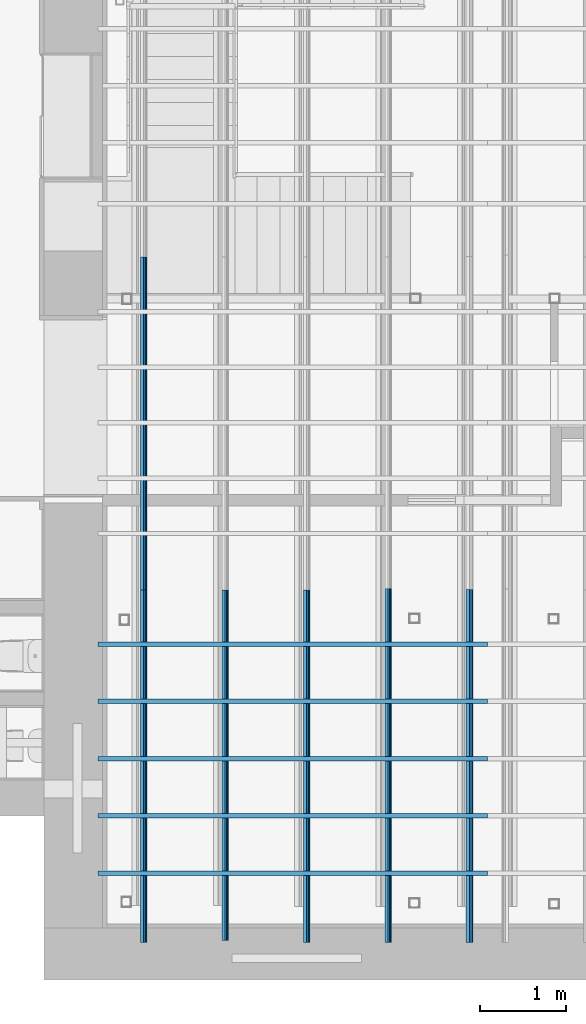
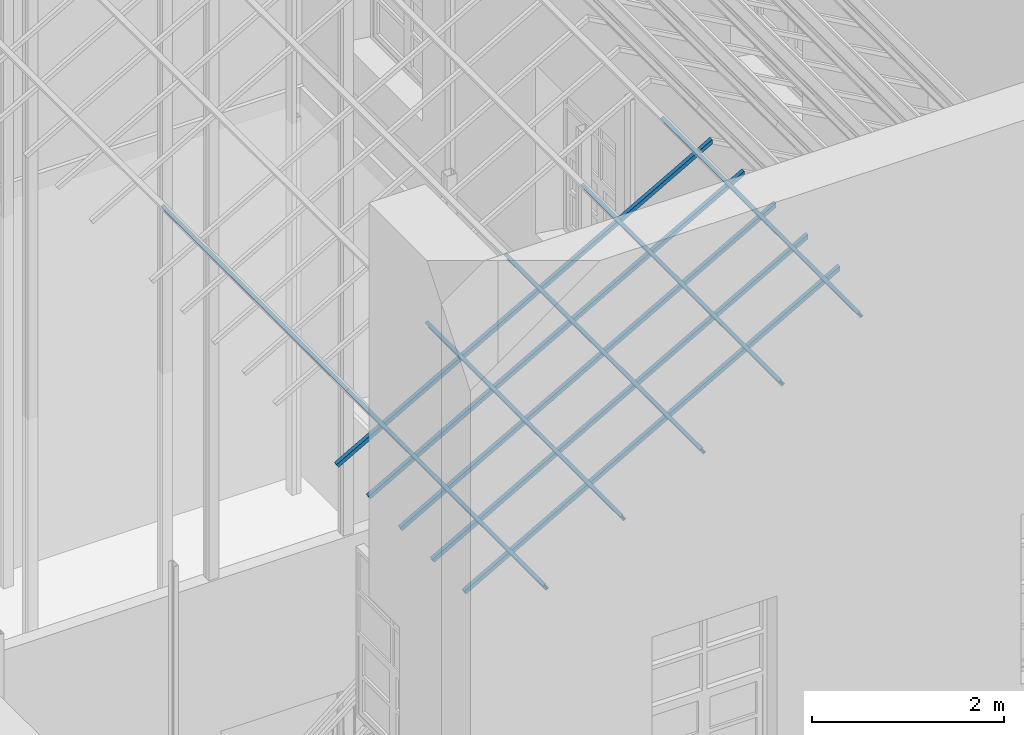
# One storey, part 16 of 75: 11 beams.
"""IFC2X3 building model written with IfcOpenShell, lengths in metres."""

from ifc_helpers import new_model, entity, si_unit, converted_unit, derived_unit, direction, frame, frame_2d, origin, place, context, subcontext, project, spatial, polyline, circle_curve, parameter, trimmed, segment, composite_curve, rectangle, outline, extrude, clip, halfspace, material, type_object, element, save


model = new_model("IFC2X3")

# Units and contexts
model_context = context("Model", 3, precision=1e-05, world=origin(), true_north=direction((6.12303176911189e-17, 1.0)))
body_context = subcontext(model_context, "Body", "Model", "MODEL_VIEW")
ifc_project = project(units=[si_unit("LENGTHUNIT", "METRE"), si_unit("AREAUNIT", "SQUARE_METRE"), si_unit("VOLUMEUNIT", "CUBIC_METRE"), converted_unit("PLANEANGLEUNIT", "DEGREE", entity("IfcRatioMeasure", 0.0174532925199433), si_unit("PLANEANGLEUNIT", "RADIAN"), dimensions=[0, 0, 0, 0, 0, 0, 0]), si_unit("MASSUNIT", "GRAM", prefix="KILO"), derived_unit("MASSDENSITYUNIT", [(si_unit("MASSUNIT", "GRAM", prefix="KILO"), 1), (si_unit("LENGTHUNIT", "METRE"), -3)]), derived_unit("MOMENTOFINERTIAUNIT", [(si_unit("LENGTHUNIT", "METRE"), 4)]), si_unit("TIMEUNIT", "SECOND"), si_unit("FREQUENCYUNIT", "HERTZ"), si_unit("THERMODYNAMICTEMPERATUREUNIT", "DEGREE_CELSIUS"), derived_unit("THERMALTRANSMITTANCEUNIT", [(si_unit("MASSUNIT", "GRAM", prefix="KILO"), 1), (si_unit("THERMODYNAMICTEMPERATUREUNIT", "KELVIN"), -1), (si_unit("TIMEUNIT", "SECOND"), -3)]), derived_unit("VOLUMETRICFLOWRATEUNIT", [(si_unit("LENGTHUNIT", "METRE"), 3), (si_unit("TIMEUNIT", "SECOND"), -1)]), si_unit("ELECTRICCURRENTUNIT", "AMPERE"), si_unit("ELECTRICVOLTAGEUNIT", "VOLT"), si_unit("POWERUNIT", "WATT"), si_unit("FORCEUNIT", "NEWTON", prefix="KILO"), si_unit("ILLUMINANCEUNIT", "LUX"), si_unit("LUMINOUSFLUXUNIT", "LUMEN"), si_unit("LUMINOUSINTENSITYUNIT", "CANDELA"), derived_unit("USERDEFINED", [(si_unit("MASSUNIT", "GRAM", prefix="KILO"), -1), (si_unit("LENGTHUNIT", "METRE"), -2), (si_unit("TIMEUNIT", "SECOND"), 3), (si_unit("LUMINOUSFLUXUNIT", "LUMEN"), 1)]), derived_unit("LINEARVELOCITYUNIT", [(si_unit("LENGTHUNIT", "METRE"), 1), (si_unit("TIMEUNIT", "SECOND"), -1)]), si_unit("PRESSUREUNIT", "PASCAL"), derived_unit("USERDEFINED", [(si_unit("LENGTHUNIT", "METRE"), -2), (si_unit("MASSUNIT", "GRAM", prefix="KILO"), 1), (si_unit("TIMEUNIT", "SECOND"), -2)]), derived_unit("LINEARFORCEUNIT", [(si_unit("MASSUNIT", "GRAM", prefix="KILO"), 1), (si_unit("LENGTHUNIT", "METRE"), 1), (si_unit("TIMEUNIT", "SECOND"), -2), (si_unit("LENGTHUNIT", "METRE"), -1)]), derived_unit("PLANARFORCEUNIT", [(si_unit("MASSUNIT", "GRAM", prefix="KILO"), 1), (si_unit("LENGTHUNIT", "METRE"), 1), (si_unit("TIMEUNIT", "SECOND"), -2), (si_unit("LENGTHUNIT", "METRE"), -2)])], contexts=[model_context])

# Site, building, storey
site_placement = place(None, origin())
site = spatial("IfcSite", under=ifc_project, at=site_placement, Name="Superficie", CompositionType="ELEMENT")
building_placement = place(site_placement, origin())
building = spatial("IfcBuilding", under=site, at=building_placement, Name="Telegestiones", CompositionType="ELEMENT")
storey_placement = place(building_placement, origin())
storey = spatial("IfcBuildingStorey", under=building, at=storey_placement, Name="Nivel 0_NPT", CompositionType="ELEMENT", Elevation=0.0)

# Beams
ifc_material_1 = material(Name="Metal - Acero - 345 MPa")
beam_type_1 = type_object("IfcBeamType", Name="IPN - Secciones en I con alas cónicas:IPN 80", PredefinedType="NOTDEFINED")
beam_1_placement = place(storey_placement, frame((6.48635733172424, -1.87519277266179, 13.4782410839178), z_axis=(0.0, 0.0, 1.0), x_axis=(0.0, 1.0, 0.0)))
element("IfcBeam", 1, at=beam_1_placement, inside=storey, type_object=beam_type_1, material=ifc_material_1, Name="IPN - Secciones en I con alas cónicas:IPN 80", ObjectType="IPN - Secciones en I con alas cónicas:IPN 80", context=body_context, shape_type="SweptSolid", body=[
    extrude(outline(composite_curve([segment(polyline([(-0.0209999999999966, -0.0400000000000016), (0.0210000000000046, -0.0400000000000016)]), True, "CONTINUOUS"), segment(polyline([(0.0210000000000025, -0.0399999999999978), (0.0210000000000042, -0.0375704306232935)]), True, "CONTINUOUS"), segment(trimmed(circle_curve(frame_2d((0.0187000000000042, -0.0375704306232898), x_axis=(1.0, 0.0)), 0.00229999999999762), [parameter(0.0)], [parameter(82.0303896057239)], True, "PARAMETER"), True, "CONTINUOUS"), segment(polyline([(0.0190188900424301, -0.0352926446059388), (0.00530927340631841, -0.0333732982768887)]), True, "CONTINUOUS"), segment(trimmed(circle_curve(frame_2d((0.0058500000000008, -0.0295109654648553), x_axis=(-0.138647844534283, -0.990341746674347)), 0.00389999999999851), [parameter(277.969610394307)], [parameter(0.0)], True, "PARAMETER"), False, "CONTINUOUS"), segment(polyline([(0.00195000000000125, -0.0295109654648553), (0.0019499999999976, 0.02951096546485)]), True, "CONTINUOUS"), segment(trimmed(circle_curve(frame_2d((0.0058499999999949, 0.0295109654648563), x_axis=(-1.0, 0.0)), 0.00389999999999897), [parameter(277.969610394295)], [parameter(0.0)], True, "PARAMETER"), False, "CONTINUOUS"), segment(polyline([(0.00530927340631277, 0.0333732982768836), (0.0190188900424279, 0.0352926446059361)]), True, "CONTINUOUS"), segment(trimmed(circle_curve(frame_2d((0.0186999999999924, 0.0375704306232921), x_axis=(0.13864784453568, -0.990341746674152)), 0.00230000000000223), [parameter(0.0)], [parameter(82.0303896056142)], True, "PARAMETER"), True, "CONTINUOUS"), segment(polyline([(0.0209999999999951, 0.0375704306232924), (0.0209999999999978, 0.0399999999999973)]), True, "CONTINUOUS"), segment(polyline([(0.0209999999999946, 0.040000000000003), (-0.0210000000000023, 0.0399999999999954)]), True, "CONTINUOUS"), segment(polyline([(-0.0210000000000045, 0.0399999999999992), (-0.0210000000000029, 0.0375704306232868)]), True, "CONTINUOUS"), segment(trimmed(circle_curve(frame_2d((-0.0187000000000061, 0.0375704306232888), x_axis=(-1.0, 0.0)), 0.00229999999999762), [parameter(0.0)], [parameter(82.0303896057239)], True, "PARAMETER"), True, "CONTINUOUS"), segment(polyline([(-0.019018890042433, 0.0352926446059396), (-0.00530927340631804, 0.0333732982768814)]), True, "CONTINUOUS"), segment(trimmed(circle_curve(frame_2d((-0.00585000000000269, 0.0295109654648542), x_axis=(0.138647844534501, 0.990341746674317)), 0.00390000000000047), [parameter(277.969610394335)], [parameter(0.0)], True, "PARAMETER"), False, "CONTINUOUS"), segment(polyline([(-0.00195000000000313, 0.0295109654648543), (-0.00194999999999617, -0.0295109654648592)]), True, "CONTINUOUS"), segment(trimmed(circle_curve(frame_2d((-0.00584999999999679, -0.0295109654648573), x_axis=(1.0, 0.0)), 0.00389999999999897), [parameter(277.969610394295)], [parameter(0.0)], True, "PARAMETER"), False, "CONTINUOUS"), segment(polyline([(-0.00530927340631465, -0.0333732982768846), (-0.0190188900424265, -0.0352926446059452)]), True, "CONTINUOUS"), segment(trimmed(circle_curve(frame_2d((-0.0186999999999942, -0.0375704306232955), x_axis=(-0.138647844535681, 0.990341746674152)), 0.00230000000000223), [parameter(0.0)], [parameter(82.0303896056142)], True, "PARAMETER"), True, "CONTINUOUS"), segment(polyline([(-0.020999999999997, -0.0375704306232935), (-0.0209999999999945, -0.0400000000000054)]), True, "CONTINUOUS")], self_intersect=False)), frame((-0.0138500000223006, -0.0245925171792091, -0.0435339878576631), z_axis=(1.0, 0.0, 0.0), x_axis=(0.0, -0.870679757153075, 0.491850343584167)), (0.0, 0.0, 1.0), 3.8608500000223),
])
beam_2_placement = place(storey_placement, frame((10.2618424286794, -5.95939277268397, 15.6110271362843), z_axis=(0.0, 0.0, 1.0), x_axis=(0.0, 1.0, 0.0)))
element("IfcBeam", 2, at=beam_2_placement, inside=storey, type_object=beam_type_1, material=ifc_material_1, Name="IPN - Secciones en I con alas cónicas:IPN 80", ObjectType="IPN - Secciones en I con alas cónicas:IPN 80", context=body_context, shape_type="SweptSolid", body=[
    extrude(outline(composite_curve([segment(polyline([(-0.0209999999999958, -0.0400000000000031), (0.0210000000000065, -0.0400000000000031)]), True, "CONTINUOUS"), segment(polyline([(0.0210000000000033, -0.0399999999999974), (0.021000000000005, -0.0375704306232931)]), True, "CONTINUOUS"), segment(trimmed(circle_curve(frame_2d((0.0187000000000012, -0.0375704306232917), x_axis=(1.0, 0.0)), 0.00230000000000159), [parameter(0.0)], [parameter(82.0303896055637)], True, "PARAMETER"), True, "CONTINUOUS"), segment(polyline([(0.0190188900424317, -0.0352926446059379), (0.00530927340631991, -0.0333732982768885)]), True, "CONTINUOUS"), segment(trimmed(circle_curve(frame_2d((0.00585000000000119, -0.0295109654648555), x_axis=(-0.138647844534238, -0.990341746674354)), 0.0038999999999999), [parameter(277.969610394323)], [parameter(0.0)], True, "PARAMETER"), False, "CONTINUOUS"), segment(polyline([(0.00195000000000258, -0.0295109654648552), (0.00194999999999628, 0.0295109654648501)]), True, "CONTINUOUS"), segment(trimmed(circle_curve(frame_2d((0.00584999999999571, 0.0295109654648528), x_axis=(-1.0, 0.0)), 0.00390000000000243), [parameter(277.969610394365)], [parameter(0.0)], True, "PARAMETER"), False, "CONTINUOUS"), segment(polyline([(0.00530927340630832, 0.0333732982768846), (0.0190188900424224, 0.0352926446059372)]), True, "CONTINUOUS"), segment(trimmed(circle_curve(frame_2d((0.0186999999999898, 0.0375704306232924), x_axis=(0.138647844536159, -0.990341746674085)), 0.00230000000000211), [parameter(0.0)], [parameter(82.0303896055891)], True, "PARAMETER"), True, "CONTINUOUS"), segment(polyline([(0.0209999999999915, 0.0375704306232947), (0.0209999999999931, 0.0399999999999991)]), True, "CONTINUOUS"), segment(polyline([(0.0209999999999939, 0.040000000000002), (-0.0210000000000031, 0.0399999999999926)]), True, "CONTINUOUS"), segment(polyline([(-0.0210000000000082, 0.0399999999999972), (-0.0210000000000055, 0.0375704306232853)]), True, "CONTINUOUS"), segment(trimmed(circle_curve(frame_2d((-0.018700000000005, 0.0375704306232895), x_axis=(-1.0, 0.0)), 0.00230000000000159), [parameter(0.0)], [parameter(82.0303896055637)], True, "PARAMETER"), True, "CONTINUOUS"), segment(polyline([(-0.0190188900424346, 0.0352926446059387), (-0.00530927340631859, 0.0333732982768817)]), True, "CONTINUOUS"), segment(trimmed(circle_curve(frame_2d((-0.00585000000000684, 0.0295109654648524), x_axis=(0.138647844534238, 0.990341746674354)), 0.0038999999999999), [parameter(277.969610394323)], [parameter(0.0)], True, "PARAMETER"), False, "CONTINUOUS"), segment(polyline([(-0.00195000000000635, 0.0295109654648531), (-0.00194999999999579, -0.0295109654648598)]), True, "CONTINUOUS"), segment(trimmed(circle_curve(frame_2d((-0.00585000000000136, -0.029510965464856), x_axis=(1.0, 0.0)), 0.00390000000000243), [parameter(277.969610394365)], [parameter(0.0)], True, "PARAMETER"), False, "CONTINUOUS"), segment(polyline([(-0.00530927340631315, -0.0333732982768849), (-0.0190188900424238, -0.035292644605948)]), True, "CONTINUOUS"), segment(trimmed(circle_curve(frame_2d((-0.0186999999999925, -0.0375704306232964), x_axis=(-0.138647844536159, 0.990341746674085)), 0.00230000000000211), [parameter(0.0)], [parameter(82.0303896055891)], True, "PARAMETER"), True, "CONTINUOUS"), segment(polyline([(-0.0209999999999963, -0.037570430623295), (-0.0209999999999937, -0.0400000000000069)]), True, "CONTINUOUS")], self_intersect=False)), frame((-0.0138500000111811, -0.0245925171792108, -0.0435339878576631), z_axis=(1.0, 0.0, 0.0), x_axis=(0.0, -0.870679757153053, 0.491850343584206)), (0.0, 0.0, 1.0), 4.0938500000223),
])
beam_3_placement = place(storey_placement, frame((6.48635733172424, -5.95939277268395, 13.4782410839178), z_axis=(0.0, 0.0, 1.0), x_axis=(0.0, 1.0, 0.0)))
element("IfcBeam", 3, at=beam_3_placement, inside=storey, type_object=beam_type_1, material=ifc_material_1, Name="IPN - Secciones en I con alas cónicas:IPN 80", ObjectType="IPN - Secciones en I con alas cónicas:IPN 80", context=body_context, shape_type="SweptSolid", body=[
    extrude(outline(composite_curve([segment(polyline([(-0.0209999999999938, -0.0400000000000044), (0.0210000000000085, -0.0400000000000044)]), True, "CONTINUOUS"), segment(polyline([(0.0210000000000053, -0.0399999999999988), (0.021000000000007, -0.0375704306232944)]), True, "CONTINUOUS"), segment(trimmed(circle_curve(frame_2d((0.018700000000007, -0.0375704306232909), x_axis=(1.0, 0.0)), 0.00229999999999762), [parameter(0.0)], [parameter(82.0303896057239)], True, "PARAMETER"), True, "CONTINUOUS"), segment(polyline([(0.0190188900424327, -0.0352926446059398), (0.00530927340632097, -0.0333732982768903)]), True, "CONTINUOUS"), segment(trimmed(circle_curve(frame_2d((0.00585000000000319, -0.0295109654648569), x_axis=(-0.138647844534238, -0.990341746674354)), 0.00389999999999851), [parameter(277.969610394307)], [parameter(0.0)], True, "PARAMETER"), False, "CONTINUOUS"), segment(polyline([(0.00195000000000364, -0.0295109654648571), (0.00194999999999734, 0.0295109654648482)]), True, "CONTINUOUS"), segment(trimmed(circle_curve(frame_2d((0.00584999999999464, 0.0295109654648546), x_axis=(-1.0, 0.0)), 0.00389999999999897), [parameter(277.969610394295)], [parameter(0.0)], True, "PARAMETER"), False, "CONTINUOUS"), segment(polyline([(0.00530927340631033, 0.0333732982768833), (0.0190188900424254, 0.0352926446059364)]), True, "CONTINUOUS"), segment(trimmed(circle_curve(frame_2d((0.0186999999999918, 0.037570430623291), x_axis=(0.138647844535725, -0.990341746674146)), 0.00230000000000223), [parameter(0.0)], [parameter(82.0303896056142)], True, "PARAMETER"), True, "CONTINUOUS"), segment(polyline([(0.0209999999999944, 0.0375704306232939), (0.020999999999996, 0.0399999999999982)]), True, "CONTINUOUS"), segment(polyline([(0.020999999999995, 0.0400000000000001), (-0.021000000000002, 0.0399999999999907)]), True, "CONTINUOUS"), segment(polyline([(-0.0210000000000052, 0.0399999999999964), (-0.0210000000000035, 0.0375704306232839)]), True, "CONTINUOUS"), segment(trimmed(circle_curve(frame_2d((-0.0187000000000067, 0.0375704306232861), x_axis=(-1.0, 0.0)), 0.00229999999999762), [parameter(0.0)], [parameter(82.0303896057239)], True, "PARAMETER"), True, "CONTINUOUS"), segment(polyline([(-0.0190188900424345, 0.0352926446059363), (-0.00530927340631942, 0.0333732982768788)]), True, "CONTINUOUS"), segment(trimmed(circle_curve(frame_2d((-0.00585000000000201, 0.0295109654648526), x_axis=(0.138647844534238, 0.990341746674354)), 0.00389999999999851), [parameter(277.969610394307)], [parameter(0.0)], True, "PARAMETER"), False, "CONTINUOUS"), segment(polyline([(-0.00195000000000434, 0.0295109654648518), (-0.00194999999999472, -0.0295109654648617)]), True, "CONTINUOUS"), segment(trimmed(circle_curve(frame_2d((-0.0058499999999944, -0.0295109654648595), x_axis=(1.0, 0.0)), 0.00389999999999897), [parameter(277.969610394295)], [parameter(0.0)], True, "PARAMETER"), False, "CONTINUOUS"), segment(polyline([(-0.00530927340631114, -0.0333732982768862), (-0.0190188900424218, -0.0352926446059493)]), True, "CONTINUOUS"), segment(trimmed(circle_curve(frame_2d((-0.0186999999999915, -0.0375704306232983), x_axis=(-0.138647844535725, 0.990341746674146)), 0.00230000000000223), [parameter(0.0)], [parameter(82.0303896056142)], True, "PARAMETER"), True, "CONTINUOUS"), segment(polyline([(-0.0209999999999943, -0.0375704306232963), (-0.0209999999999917, -0.0400000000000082)]), True, "CONTINUOUS")], self_intersect=False)), frame((-0.0137500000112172, -0.0245925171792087, -0.0435339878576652), z_axis=(1.0, 0.0, 0.0), x_axis=(0.0, -0.870679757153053, 0.491850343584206)), (0.0, 0.0, 1.0), 4.0848500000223),
])
beam_4_placement = place(storey_placement, frame((9.31797115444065, -5.95939277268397, 15.0778306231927), z_axis=(0.0, 0.0, 1.0), x_axis=(0.0, 1.0, 0.0)))
element("IfcBeam", 4, at=beam_4_placement, inside=storey, type_object=beam_type_1, material=ifc_material_1, Name="IPN - Secciones en I con alas cónicas:IPN 80", ObjectType="IPN - Secciones en I con alas cónicas:IPN 80", context=body_context, shape_type="SweptSolid", body=[
    extrude(outline(composite_curve([segment(polyline([(-0.0209999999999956, -0.0400000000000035), (0.0210000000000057, -0.0400000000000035)]), True, "CONTINUOUS"), segment(polyline([(0.0210000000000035, -0.0399999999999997), (0.0210000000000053, -0.0375704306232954)]), True, "CONTINUOUS"), segment(trimmed(circle_curve(frame_2d((0.0187000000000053, -0.0375704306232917), x_axis=(1.0, 0.0)), 0.00229999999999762), [parameter(0.0)], [parameter(82.0303896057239)], True, "PARAMETER"), True, "CONTINUOUS"), segment(polyline([(0.0190188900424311, -0.0352926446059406), (0.00530927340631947, -0.0333732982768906)]), True, "CONTINUOUS"), segment(trimmed(circle_curve(frame_2d((0.00585000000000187, -0.0295109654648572), x_axis=(-0.138647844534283, -0.990341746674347)), 0.00389999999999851), [parameter(277.969610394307)], [parameter(0.0)], True, "PARAMETER"), False, "CONTINUOUS"), segment(polyline([(0.00195000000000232, -0.0295109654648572), (0.00194999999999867, 0.0295109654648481)]), True, "CONTINUOUS"), segment(trimmed(circle_curve(frame_2d((0.00584999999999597, 0.0295109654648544), x_axis=(-1.0, 0.0)), 0.00389999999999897), [parameter(277.969610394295)], [parameter(0.0)], True, "PARAMETER"), False, "CONTINUOUS"), segment(polyline([(0.00530927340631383, 0.0333732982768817), (0.019018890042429, 0.0352926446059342)]), True, "CONTINUOUS"), segment(trimmed(circle_curve(frame_2d((0.0186999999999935, 0.0375704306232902), x_axis=(0.138647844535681, -0.990341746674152)), 0.00230000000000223), [parameter(0.0)], [parameter(82.0303896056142)], True, "PARAMETER"), True, "CONTINUOUS"), segment(polyline([(0.0209999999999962, 0.0375704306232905), (0.020999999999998, 0.0399999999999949)]), True, "CONTINUOUS"), segment(polyline([(0.0209999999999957, 0.0400000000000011), (-0.0210000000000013, 0.0399999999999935)]), True, "CONTINUOUS"), segment(polyline([(-0.0210000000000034, 0.0399999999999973), (-0.0210000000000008, 0.037570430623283)]), True, "CONTINUOUS"), segment(trimmed(circle_curve(frame_2d((-0.018700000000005, 0.0375704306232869), x_axis=(-1.0, 0.0)), 0.00229999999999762), [parameter(0.0)], [parameter(82.0303896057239)], True, "PARAMETER"), True, "CONTINUOUS"), segment(polyline([(-0.019018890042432, 0.0352926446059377), (-0.00530927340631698, 0.0333732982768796)]), True, "CONTINUOUS"), segment(trimmed(circle_curve(frame_2d((-0.00585000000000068, 0.0295109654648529), x_axis=(0.138647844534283, 0.990341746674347)), 0.00389999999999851), [parameter(277.969610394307)], [parameter(0.0)], True, "PARAMETER"), False, "CONTINUOUS"), segment(polyline([(-0.00195000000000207, 0.0295109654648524), (-0.0019499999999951, -0.029510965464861)]), True, "CONTINUOUS"), segment(trimmed(circle_curve(frame_2d((-0.00584999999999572, -0.0295109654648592), x_axis=(1.0, 0.0)), 0.00389999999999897), [parameter(277.969610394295)], [parameter(0.0)], True, "PARAMETER"), False, "CONTINUOUS"), segment(polyline([(-0.00530927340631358, -0.0333732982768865), (-0.0190188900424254, -0.0352926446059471)]), True, "CONTINUOUS"), segment(trimmed(circle_curve(frame_2d((-0.0186999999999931, -0.0375704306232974), x_axis=(-0.13864784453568, 0.990341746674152)), 0.00230000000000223), [parameter(0.0)], [parameter(82.0303896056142)], True, "PARAMETER"), True, "CONTINUOUS"), segment(polyline([(-0.020999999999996, -0.0375704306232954), (-0.0209999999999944, -0.0400000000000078)]), True, "CONTINUOUS")], self_intersect=False)), frame((-0.0138500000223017, -0.0245925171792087, -0.0435339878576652), z_axis=(1.0, 0.0, 0.0), x_axis=(0.0, -0.870679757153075, 0.491850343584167)), (0.0, 0.0, 1.0), 4.11805000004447),
])
beam_5_placement = place(storey_placement, frame((8.37409988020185, -5.95939277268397, 14.5446341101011), z_axis=(0.0, 0.0, 1.0), x_axis=(0.0, 1.0, 0.0)))
element("IfcBeam", 5, at=beam_5_placement, inside=storey, type_object=beam_type_1, material=ifc_material_1, Name="IPN - Secciones en I con alas cónicas:IPN 80", ObjectType="IPN - Secciones en I con alas cónicas:IPN 80", context=body_context, shape_type="SweptSolid", body=[
    extrude(outline(composite_curve([segment(polyline([(-0.0209999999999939, -0.040000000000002), (0.0210000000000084, -0.040000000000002)]), True, "CONTINUOUS"), segment(polyline([(0.0210000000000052, -0.0399999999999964), (0.0210000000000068, -0.037570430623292)]), True, "CONTINUOUS"), segment(trimmed(circle_curve(frame_2d((0.0187000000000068, -0.0375704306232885), x_axis=(1.0, 0.0)), 0.00229999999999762), [parameter(0.0)], [parameter(82.0303896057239)], True, "PARAMETER"), True, "CONTINUOUS"), segment(polyline([(0.0190188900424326, -0.0352926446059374), (0.00530927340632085, -0.0333732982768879)]), True, "CONTINUOUS"), segment(trimmed(circle_curve(frame_2d((0.00585000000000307, -0.0295109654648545), x_axis=(-0.138647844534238, -0.990341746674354)), 0.00389999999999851), [parameter(277.969610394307)], [parameter(0.0)], True, "PARAMETER"), False, "CONTINUOUS"), segment(polyline([(0.00195000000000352, -0.0295109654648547), (0.00194999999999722, 0.0295109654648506)]), True, "CONTINUOUS"), segment(trimmed(circle_curve(frame_2d((0.00584999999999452, 0.0295109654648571), x_axis=(-1.0, 0.0)), 0.00389999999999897), [parameter(277.969610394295)], [parameter(0.0)], True, "PARAMETER"), False, "CONTINUOUS"), segment(polyline([(0.00530927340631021, 0.0333732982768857), (0.0190188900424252, 0.0352926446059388)]), True, "CONTINUOUS"), segment(trimmed(circle_curve(frame_2d((0.0186999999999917, 0.0375704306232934), x_axis=(0.138647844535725, -0.990341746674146)), 0.00230000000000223), [parameter(0.0)], [parameter(82.0303896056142)], True, "PARAMETER"), True, "CONTINUOUS"), segment(polyline([(0.0209999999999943, 0.0375704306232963), (0.0209999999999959, 0.0400000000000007)]), True, "CONTINUOUS"), segment(polyline([(0.0209999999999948, 0.0400000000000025), (-0.0210000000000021, 0.0399999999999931)]), True, "CONTINUOUS"), segment(polyline([(-0.0210000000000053, 0.0399999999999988), (-0.0210000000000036, 0.0375704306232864)]), True, "CONTINUOUS"), segment(trimmed(circle_curve(frame_2d((-0.0187000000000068, 0.0375704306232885), x_axis=(-1.0, 0.0)), 0.00229999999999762), [parameter(0.0)], [parameter(82.0303896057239)], True, "PARAMETER"), True, "CONTINUOUS"), segment(polyline([(-0.0190188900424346, 0.0352926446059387), (-0.00530927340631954, 0.0333732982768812)]), True, "CONTINUOUS"), segment(trimmed(circle_curve(frame_2d((-0.00585000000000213, 0.029510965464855), x_axis=(0.138647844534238, 0.990341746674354)), 0.00389999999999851), [parameter(277.969610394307)], [parameter(0.0)], True, "PARAMETER"), False, "CONTINUOUS"), segment(polyline([(-0.00195000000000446, 0.0295109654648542), (-0.00194999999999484, -0.0295109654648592)]), True, "CONTINUOUS"), segment(trimmed(circle_curve(frame_2d((-0.00584999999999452, -0.0295109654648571), x_axis=(1.0, 0.0)), 0.00389999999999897), [parameter(277.969610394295)], [parameter(0.0)], True, "PARAMETER"), False, "CONTINUOUS"), segment(polyline([(-0.00530927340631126, -0.0333732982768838), (-0.0190188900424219, -0.0352926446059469)]), True, "CONTINUOUS"), segment(trimmed(circle_curve(frame_2d((-0.0186999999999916, -0.0375704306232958), x_axis=(-0.138647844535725, 0.990341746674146)), 0.00230000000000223), [parameter(0.0)], [parameter(82.0303896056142)], True, "PARAMETER"), True, "CONTINUOUS"), segment(polyline([(-0.0209999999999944, -0.0375704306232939), (-0.0209999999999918, -0.0400000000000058)]), True, "CONTINUOUS")], self_intersect=False)), frame((-0.0137500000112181, -0.0245925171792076, -0.0435339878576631), z_axis=(1.0, 0.0, 0.0), x_axis=(0.0, -0.870679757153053, 0.491850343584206)), (0.0, 0.0, 1.0), 4.0848500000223),
])
beam_6_placement = place(storey_placement, frame((7.43022860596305, -5.9351927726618, 14.0114375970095), z_axis=(0.0, 0.0, 1.0), x_axis=(0.0, 1.0, 0.0)))
element("IfcBeam", 6, at=beam_6_placement, inside=storey, type_object=beam_type_1, material=ifc_material_1, Name="IPN - Secciones en I con alas cónicas:IPN 80", ObjectType="IPN - Secciones en I con alas cónicas:IPN 80", context=body_context, shape_type="SweptSolid", body=[
    extrude(outline(composite_curve([segment(polyline([(-0.0209999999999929, -0.0400000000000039), (0.0210000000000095, -0.0400000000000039)]), True, "CONTINUOUS"), segment(polyline([(0.0210000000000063, -0.0399999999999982), (0.0210000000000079, -0.0375704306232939)]), True, "CONTINUOUS"), segment(trimmed(circle_curve(frame_2d((0.0187000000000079, -0.0375704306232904), x_axis=(1.0, 0.0)), 0.00229999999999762), [parameter(0.0)], [parameter(82.0303896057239)], True, "PARAMETER"), True, "CONTINUOUS"), segment(polyline([(0.0190188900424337, -0.0352926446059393), (0.00530927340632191, -0.0333732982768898)]), True, "CONTINUOUS"), segment(trimmed(circle_curve(frame_2d((0.00585000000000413, -0.0295109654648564), x_axis=(-0.138647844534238, -0.990341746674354)), 0.00389999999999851), [parameter(277.969610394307)], [parameter(0.0)], True, "PARAMETER"), False, "CONTINUOUS"), segment(polyline([(0.00195000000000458, -0.0295109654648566), (0.00194999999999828, 0.0295109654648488)]), True, "CONTINUOUS"), segment(trimmed(circle_curve(frame_2d((0.00584999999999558, 0.0295109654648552), x_axis=(-1.0, 0.0)), 0.00389999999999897), [parameter(277.969610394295)], [parameter(0.0)], True, "PARAMETER"), False, "CONTINUOUS"), segment(polyline([(0.00530927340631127, 0.0333732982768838), (0.0190188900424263, 0.0352926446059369)]), True, "CONTINUOUS"), segment(trimmed(circle_curve(frame_2d((0.0186999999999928, 0.0375704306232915), x_axis=(0.138647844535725, -0.990341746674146)), 0.00230000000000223), [parameter(0.0)], [parameter(82.0303896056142)], True, "PARAMETER"), True, "CONTINUOUS"), segment(polyline([(0.0209999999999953, 0.0375704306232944), (0.020999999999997, 0.0399999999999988)]), True, "CONTINUOUS"), segment(polyline([(0.0209999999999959, 0.0400000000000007), (-0.0210000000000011, 0.0399999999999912)]), True, "CONTINUOUS"), segment(polyline([(-0.0210000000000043, 0.0399999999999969), (-0.0210000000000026, 0.0375704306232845)]), True, "CONTINUOUS"), segment(trimmed(circle_curve(frame_2d((-0.0187000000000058, 0.0375704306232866), x_axis=(-1.0, 0.0)), 0.00229999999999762), [parameter(0.0)], [parameter(82.0303896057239)], True, "PARAMETER"), True, "CONTINUOUS"), segment(polyline([(-0.0190188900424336, 0.0352926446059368), (-0.00530927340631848, 0.0333732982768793)]), True, "CONTINUOUS"), segment(trimmed(circle_curve(frame_2d((-0.00585000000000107, 0.0295109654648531), x_axis=(0.138647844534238, 0.990341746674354)), 0.00389999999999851), [parameter(277.969610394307)], [parameter(0.0)], True, "PARAMETER"), False, "CONTINUOUS"), segment(polyline([(-0.00195000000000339, 0.0295109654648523), (-0.00194999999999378, -0.0295109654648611)]), True, "CONTINUOUS"), segment(trimmed(circle_curve(frame_2d((-0.00584999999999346, -0.0295109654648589), x_axis=(1.0, 0.0)), 0.00389999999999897), [parameter(277.969610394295)], [parameter(0.0)], True, "PARAMETER"), False, "CONTINUOUS"), segment(polyline([(-0.0053092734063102, -0.0333732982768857), (-0.0190188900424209, -0.0352926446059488)]), True, "CONTINUOUS"), segment(trimmed(circle_curve(frame_2d((-0.0186999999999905, -0.0375704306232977), x_axis=(-0.138647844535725, 0.990341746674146)), 0.00230000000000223), [parameter(0.0)], [parameter(82.0303896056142)], True, "PARAMETER"), True, "CONTINUOUS"), segment(polyline([(-0.0209999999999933, -0.0375704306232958), (-0.0209999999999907, -0.0400000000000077)]), True, "CONTINUOUS")], self_intersect=False)), frame((-0.0138500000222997, -0.0245925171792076, -0.0435339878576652), z_axis=(1.0, 0.0, 0.0), x_axis=(0.0, -0.870679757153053, 0.491850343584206)), (0.0, 0.0, 1.0), 4.0608500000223),
])
ifc_material_2 = material(Name="Madera - Madera de construcción")
beam_type_2 = type_object("IfcBeamType", Name="Madera:50x50mm", PredefinedType="NOTDEFINED")
beam_7_placement = place(storey_placement, frame((6.01059937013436, -3.1780508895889, 13.2094835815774), z_axis=(-0.491850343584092, 0.0, 0.870679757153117), x_axis=(0.870679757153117, 0.0, 0.491850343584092)))
element("IfcBeam", 7, at=beam_7_placement, inside=storey, type_object=beam_type_2, material=ifc_material_2, Name="Madera:50x50mm", ObjectType="Madera:50x50mm", context=body_context, shape_type="SweptSolid", body=[
    clip(extrude(rectangle(XDim=0.0500000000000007, YDim=0.0500000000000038, at=frame_2d((-9.41954847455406e-16, 0.0), x_axis=(1.0, 0.0))), frame((-0.0851437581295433, 0.0, -0.115), z_axis=(1.0, 0.0, 0.0), x_axis=(0.0, 0.0, -1.0)), (0.0, 0.0, 1.0), 5.1830202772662), halfspace(frame((5.06963132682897, 0.0, -0.139999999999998), z_axis=(0.870679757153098, 0.0, -0.491850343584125), x_axis=(0.0, -1.0, 0.0)), False)),
])
beam_8_placement = place(storey_placement, frame((6.01059937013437, -2.51472183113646, 13.2094835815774), z_axis=(-0.491850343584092, 0.0, 0.870679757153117), x_axis=(0.870679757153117, 0.0, 0.491850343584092)))
element("IfcBeam", 8, at=beam_8_placement, inside=storey, type_object=beam_type_2, material=ifc_material_2, Name="Madera:50x50mm", ObjectType="Madera:50x50mm", context=body_context, shape_type="SweptSolid", body=[
    clip(extrude(rectangle(XDim=0.0500000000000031, YDim=0.0500000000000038, at=frame_2d((-2.15105711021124e-15, 0.0), x_axis=(1.0, 0.0))), frame((-0.0851437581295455, 0.0, -0.115000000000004), z_axis=(1.0, 0.0, 0.0), x_axis=(0.0, 0.0, -1.0)), (0.0, 0.0, 1.0), 5.1830202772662), halfspace(frame((5.06963132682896, 0.0, -0.139999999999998), z_axis=(0.870679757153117, 0.0, -0.491850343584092), x_axis=(0.0, -1.0, 0.0)), False)),
])
beam_9_placement = place(storey_placement, frame((6.01059937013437, -3.84137994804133, 13.2094835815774), z_axis=(-0.491850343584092, 0.0, 0.870679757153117), x_axis=(0.870679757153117, 0.0, 0.491850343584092)))
element("IfcBeam", 9, at=beam_9_placement, inside=storey, type_object=beam_type_2, material=ifc_material_2, Name="Madera:50x50mm", ObjectType="Madera:50x50mm", context=body_context, shape_type="SweptSolid", body=[
    clip(extrude(rectangle(XDim=0.0500000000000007, YDim=0.0500000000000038, at=frame_2d((-9.43689570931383e-16, 0.0), x_axis=(1.0, 0.0))), frame((-0.0851437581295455, 0.0, -0.115000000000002), z_axis=(1.0, 0.0, 0.0), x_axis=(0.0, 0.0, -1.0)), (0.0, 0.0, 1.0), 5.18302027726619), halfspace(frame((5.06963132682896, 0.0, -0.140000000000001), z_axis=(0.870679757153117, 0.0, -0.491850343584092), x_axis=(0.0, -1.0, 0.0)), False)),
])
beam_10_placement = place(storey_placement, frame((6.01059937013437, -4.50470900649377, 13.2094835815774), z_axis=(-0.491850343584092, 0.0, 0.870679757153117), x_axis=(0.870679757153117, 0.0, 0.491850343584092)))
element("IfcBeam", 10, at=beam_10_placement, inside=storey, type_object=beam_type_2, material=ifc_material_2, Name="Madera:50x50mm", ObjectType="Madera:50x50mm", context=body_context, shape_type="SweptSolid", body=[
    clip(extrude(rectangle(XDim=0.0500000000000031, YDim=0.0500000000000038, at=frame_2d((-2.15105711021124e-15, 0.0), x_axis=(1.0, 0.0))), frame((-0.0851437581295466, 0.0, -0.115000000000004), z_axis=(1.0, 0.0, 0.0), x_axis=(0.0, 0.0, -1.0)), (0.0, 0.0, 1.0), 5.1830202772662), halfspace(frame((5.06963132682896, 0.0, -0.139999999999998), z_axis=(0.870679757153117, 0.0, -0.491850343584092), x_axis=(0.0, -1.0, 0.0)), False)),
])
beam_11_placement = place(storey_placement, frame((6.01059937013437, -5.1680380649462, 13.2094835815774), z_axis=(-0.491850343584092, 0.0, 0.870679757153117), x_axis=(0.870679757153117, 0.0, 0.491850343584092)))
element("IfcBeam", 11, at=beam_11_placement, inside=storey, type_object=beam_type_2, material=ifc_material_2, Name="Madera:50x50mm", ObjectType="Madera:50x50mm", context=body_context, shape_type="SweptSolid", body=[
    clip(extrude(rectangle(XDim=0.0500000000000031, YDim=0.0500000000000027, at=frame_2d((-2.15105711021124e-15, 5.41233724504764e-16), x_axis=(1.0, 0.0))), frame((-0.0851437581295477, 0.0, -0.115000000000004), z_axis=(1.0, 0.0, 0.0), x_axis=(0.0, 0.0, -1.0)), (0.0, 0.0, 1.0), 5.1830202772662), halfspace(frame((5.06963132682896, 0.0, -0.140000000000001), z_axis=(0.870679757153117, 0.0, -0.491850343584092), x_axis=(0.0, -1.0, 0.0)), False)),
])

save(model, "model.ifc")
